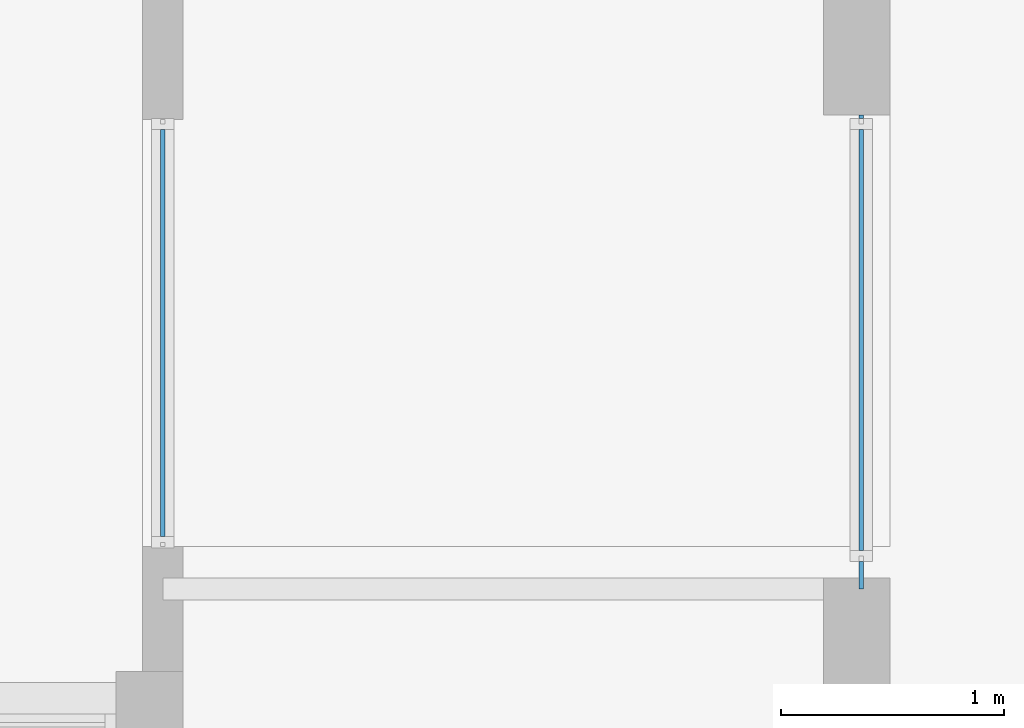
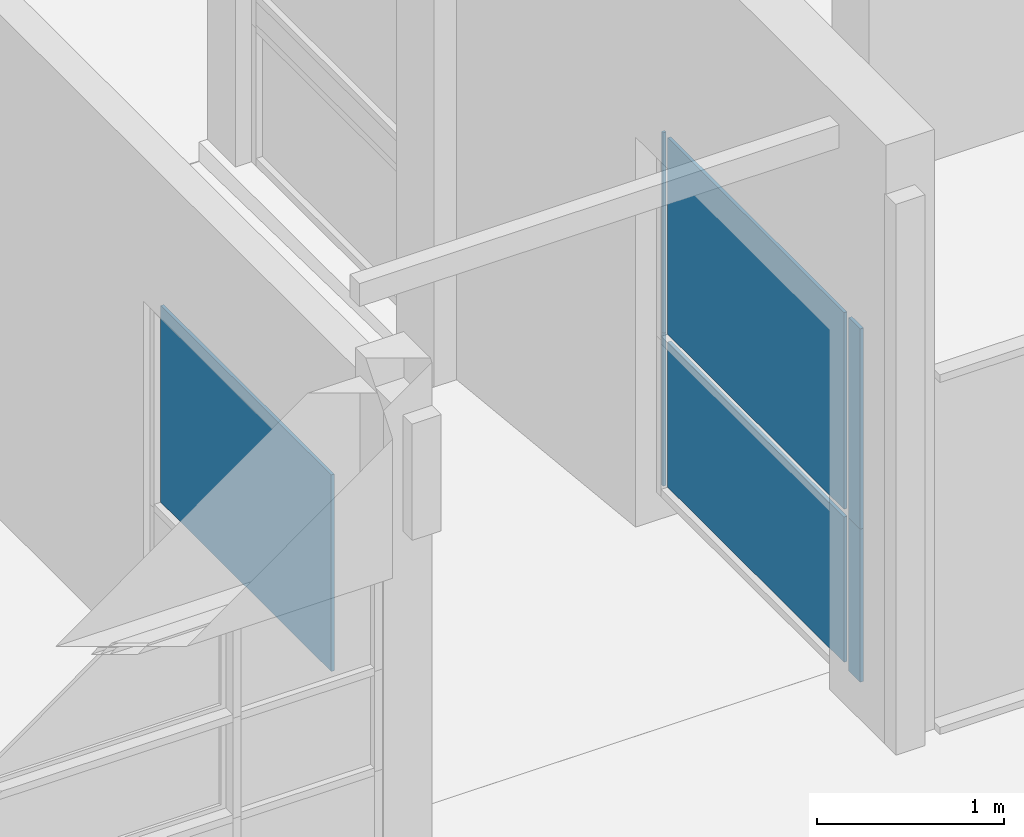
# One storey, part 44 of 117: 7 plates, 2 elements without a shape of their own.
"""IFC4 building model written with IfcOpenShell, lengths in metres."""

from ifc_helpers import new_model, entity, si_unit, converted_unit, derived_unit, direction, frame, origin, place, context, subcontext, project, spatial, indexed_curve, outline, extrude, source, transform, mapped, material, type_object, type_shapes, element, aggregate, save


model = new_model("IFC4")

# Units and contexts
model_context = context("Model", 3, precision=1e-05, world=origin(), true_north=direction((6.123031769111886e-17, 1.0)))
body_context = subcontext(model_context, "Body", "Model", "MODEL_VIEW")
ifc_project = project(units=[si_unit("LENGTHUNIT", "METRE"), si_unit("AREAUNIT", "SQUARE_METRE"), si_unit("VOLUMEUNIT", "CUBIC_METRE"), converted_unit("PLANEANGLEUNIT", "DEGREE", entity("IfcRatioMeasure", 0.017453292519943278), si_unit("PLANEANGLEUNIT", "RADIAN"), dimensions=[0, 0, 0, 0, 0, 0, 0]), si_unit("MASSUNIT", "GRAM", prefix="KILO"), derived_unit("MASSDENSITYUNIT", [(si_unit("MASSUNIT", "GRAM", prefix="KILO"), 1), (si_unit("LENGTHUNIT", "METRE"), -3)]), derived_unit("MOMENTOFINERTIAUNIT", [(si_unit("LENGTHUNIT", "METRE"), 4)]), si_unit("TIMEUNIT", "SECOND"), si_unit("FREQUENCYUNIT", "HERTZ"), si_unit("THERMODYNAMICTEMPERATUREUNIT", "DEGREE_CELSIUS"), derived_unit("THERMALTRANSMITTANCEUNIT", [(si_unit("MASSUNIT", "GRAM", prefix="KILO"), 1), (si_unit("THERMODYNAMICTEMPERATUREUNIT", "KELVIN"), -1), (si_unit("TIMEUNIT", "SECOND"), -3)]), derived_unit("VOLUMETRICFLOWRATEUNIT", [(si_unit("LENGTHUNIT", "METRE"), 3), (si_unit("TIMEUNIT", "SECOND"), -1)]), derived_unit("MASSFLOWRATEUNIT", [(si_unit("MASSUNIT", "GRAM", prefix="KILO"), 1), (si_unit("TIMEUNIT", "SECOND"), -1)]), derived_unit("ROTATIONALFREQUENCYUNIT", [(si_unit("TIMEUNIT", "SECOND"), -1)]), si_unit("ELECTRICCURRENTUNIT", "AMPERE"), si_unit("ELECTRICVOLTAGEUNIT", "VOLT"), si_unit("POWERUNIT", "WATT"), si_unit("FORCEUNIT", "NEWTON", prefix="KILO"), si_unit("ILLUMINANCEUNIT", "LUX"), si_unit("LUMINOUSFLUXUNIT", "LUMEN"), si_unit("LUMINOUSINTENSITYUNIT", "CANDELA"), derived_unit("USERDEFINED", [(si_unit("MASSUNIT", "GRAM", prefix="KILO"), -1), (si_unit("LENGTHUNIT", "METRE"), -2), (si_unit("TIMEUNIT", "SECOND"), 3), (si_unit("LUMINOUSFLUXUNIT", "LUMEN"), 1)]), derived_unit("SOUNDPOWERUNIT", [(si_unit("MASSUNIT", "GRAM", prefix="KILO"), 1), (si_unit("LENGTHUNIT", "METRE"), 2), (si_unit("TIMEUNIT", "SECOND"), -3)]), derived_unit("SOUNDPRESSUREUNIT", [(si_unit("MASSUNIT", "GRAM", prefix="KILO"), 1), (si_unit("LENGTHUNIT", "METRE"), -1), (si_unit("TIMEUNIT", "SECOND"), -2)]), derived_unit("LINEARVELOCITYUNIT", [(si_unit("LENGTHUNIT", "METRE"), 1), (si_unit("TIMEUNIT", "SECOND"), -1)]), si_unit("PRESSUREUNIT", "PASCAL"), derived_unit("USERDEFINED", [(si_unit("LENGTHUNIT", "METRE"), -2), (si_unit("MASSUNIT", "GRAM", prefix="KILO"), 1), (si_unit("TIMEUNIT", "SECOND"), -2)]), derived_unit("LINEARFORCEUNIT", [(si_unit("MASSUNIT", "GRAM", prefix="KILO"), 1), (si_unit("LENGTHUNIT", "METRE"), 1), (si_unit("TIMEUNIT", "SECOND"), -2), (si_unit("LENGTHUNIT", "METRE"), -1)]), derived_unit("PLANARFORCEUNIT", [(si_unit("MASSUNIT", "GRAM", prefix="KILO"), 1), (si_unit("LENGTHUNIT", "METRE"), 1), (si_unit("TIMEUNIT", "SECOND"), -2), (si_unit("LENGTHUNIT", "METRE"), -2)])], contexts=[model_context])

# Site, building, storey
site_placement = place(None, origin())
site = spatial("IfcSite", under=ifc_project, at=site_placement, Name="Superficie", CompositionType="ELEMENT")
building_placement = place(site_placement, origin())
building = spatial("IfcBuilding", under=site, at=building_placement, CompositionType="ELEMENT")
storey_placement = place(building_placement, origin())
storey = spatial("IfcBuildingStorey", under=building, at=storey_placement, Name="Nivel 0", CompositionType="ELEMENT", Elevation=0.0)

# Curtain wall, plate
curtain_wall_type = type_object("IfcCurtainWallType", Name="Muro cortina:Muro cortina - simple", PredefinedType="NOTDEFINED")
curtain_wall_1_placement = place(storey_placement, origin())
curtain_wall_1 = element("IfcCurtainWall", 1, at=curtain_wall_1_placement, inside=storey, type_object=curtain_wall_type, Name="Muro cortina:Muro cortina - simple", ObjectType="Muro cortina:Muro cortina - simple", PredefinedType="NOTDEFINED")
ifc_material = material(Name="Cristal", Category="Vidrio")
plate_type_1 = type_object("IfcPlateType", Name="Panel de sistema:Acristalado", PredefinedType="CURTAIN_PANEL", material=ifc_material)
shared_shape_1 = source(origin(), body_context, "Body", "SweptSolid", [
    extrude(outline(indexed_curve([(-0.01, -0.9136169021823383), (0.01, -0.9136169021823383), (0.01, 0.9136169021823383), (-0.01, 0.9136169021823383), (-0.01, -0.9136169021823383)], self_intersect=False)), frame((0.0, 0.0, 0.0), z_axis=(0.0, 0.0, 1.0), x_axis=(0.0, 1.0, 0.0)), (0.0, 0.0, 1.0), 1.2849999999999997),
])
type_shapes(plate_type_1, [shared_shape_1])
plate_1_placement = place(curtain_wall_1_placement, frame((12.881799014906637, 7.475356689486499, 1.0450000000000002), z_axis=(0.0, 0.0, 1.0), x_axis=(0.0, -1.0, 0.0)))
plate_1 = element("IfcPlate", 2, at=plate_1_placement, type_object=plate_type_1, material=ifc_material, Name="Panel de sistema:Acristalado", ObjectType="Panel de sistema:Acristalado", PredefinedType="CURTAIN_PANEL", context=body_context, shape_type="MappedRepresentation", body=[
    mapped(shared_shape_1, transform((0.0, 0.0, 0.0), scale=1.0)),
])
aggregate(curtain_wall_1, [plate_1])

# Curtain wall, plates
curtain_wall_2_placement = place(storey_placement, origin())
curtain_wall_2 = element("IfcCurtainWall", 3, at=curtain_wall_2_placement, inside=storey, type_object=curtain_wall_type, Name="Muro cortina:Muro cortina - simple", ObjectType="Muro cortina:Muro cortina - simple", PredefinedType="NOTDEFINED")
plate_type_2 = type_object("IfcPlateType", Name="Panel de sistema:Acristalado", PredefinedType="CURTAIN_PANEL", material=ifc_material)
shared_shape_2 = source(origin(), body_context, "Body", "SweptSolid", [
    extrude(outline(indexed_curve([(-0.01, -0.008235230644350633), (0.01, -0.008235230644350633), (0.01, 0.008235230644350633), (-0.01, 0.008235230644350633), (-0.01, -0.008235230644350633)], self_intersect=False)), frame((0.0, 0.0, 0.0), z_axis=(0.0, 0.0, 1.0), x_axis=(0.0, 1.0, 0.0)), (0.0, 0.0, 1.0), 1.0),
])
type_shapes(plate_type_2, [shared_shape_2])
plate_2_placement = place(curtain_wall_2_placement, frame((16.01679901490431, 8.447208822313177, 0.020000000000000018), z_axis=(0.0, 0.0, 1.0), x_axis=(0.0, -1.0, 0.0)))
plate_2 = element("IfcPlate", 4, at=plate_2_placement, type_object=plate_type_2, material=ifc_material, Name="Panel de sistema:Acristalado", ObjectType="Panel de sistema:Acristalado", PredefinedType="CURTAIN_PANEL", context=body_context, shape_type="MappedRepresentation", body=[
    mapped(shared_shape_2, transform((0.0, 0.0, 0.0), scale=1.0)),
])
plate_type_3 = type_object("IfcPlateType", Name="Panel de sistema:Acristalado", PredefinedType="CURTAIN_PANEL", material=ifc_material)
shared_shape_3 = source(origin(), body_context, "Body", "SweptSolid", [
    extrude(outline(indexed_curve([(-0.01, -0.94426476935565), (0.01, -0.94426476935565), (0.01, 0.94426476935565), (-0.01, 0.94426476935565), (-0.01, -0.94426476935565)], self_intersect=False)), frame((0.0, 0.0, 0.0), z_axis=(0.0, 0.0, 1.0), x_axis=(0.0, 1.0, 0.0)), (0.0, 0.0, 1.0), 0.9500000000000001),
])
type_shapes(plate_type_3, [shared_shape_3])
plate_3_placement = place(curtain_wall_2_placement, frame((16.016799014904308, 7.444708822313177, 0.045000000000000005), z_axis=(0.0, 0.0, 1.0), x_axis=(0.0, -1.0, 0.0)))
plate_3 = element("IfcPlate", 5, at=plate_3_placement, type_object=plate_type_3, material=ifc_material, Name="Panel de sistema:Acristalado", ObjectType="Panel de sistema:Acristalado", PredefinedType="CURTAIN_PANEL", context=body_context, shape_type="MappedRepresentation", body=[
    mapped(shared_shape_3, transform((0.0, 0.0, 0.0), scale=1.0)),
])
plate_type_4 = type_object("IfcPlateType", Name="Panel de sistema:Acristalado", PredefinedType="CURTAIN_PANEL", material=ifc_material)
shared_shape_4 = source(origin(), body_context, "Body", "SweptSolid", [
    extrude(outline(indexed_curve([(-0.01, -0.061846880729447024), (0.01, -0.061846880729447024), (0.01, 0.061846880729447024), (-0.01, 0.061846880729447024), (-0.01, -0.061846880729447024)], self_intersect=False)), frame((0.0, 0.0, 0.0), z_axis=(0.0, 0.0, 1.0), x_axis=(0.0, 1.0, 0.0)), (0.0, 0.0, 1.0), 1.0),
])
type_shapes(plate_type_4, [shared_shape_4])
plate_4_placement = place(curtain_wall_2_placement, frame((16.016799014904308, 6.3885971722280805, 0.020000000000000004), z_axis=(0.0, 0.0, 1.0), x_axis=(0.0, -1.0, 0.0)))
plate_4 = element("IfcPlate", 6, at=plate_4_placement, type_object=plate_type_4, material=ifc_material, Name="Panel de sistema:Acristalado", ObjectType="Panel de sistema:Acristalado", PredefinedType="CURTAIN_PANEL", context=body_context, shape_type="MappedRepresentation", body=[
    mapped(shared_shape_4, transform((0.0, 0.0, 0.0), scale=1.0)),
])
plate_type_5 = type_object("IfcPlateType", Name="Panel de sistema:Acristalado", PredefinedType="CURTAIN_PANEL", material=ifc_material)
shared_shape_5 = source(origin(), body_context, "Body", "SweptSolid", [
    extrude(outline(indexed_curve([(-0.01, -0.008235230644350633), (0.01, -0.008235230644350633), (0.01, 0.008235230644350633), (-0.01, 0.008235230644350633), (-0.01, -0.008235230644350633)], self_intersect=False)), frame((0.0, 0.0, 0.0), z_axis=(0.0, 0.0, 1.0), x_axis=(0.0, 1.0, 0.0)), (0.0, 0.0, 1.0), 1.3099999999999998),
])
type_shapes(plate_type_5, [shared_shape_5])
plate_5_placement = place(curtain_wall_2_placement, frame((16.01679901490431, 8.447208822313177, 1.0200000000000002), z_axis=(0.0, 0.0, 1.0), x_axis=(0.0, -1.0, 0.0)))
plate_5 = element("IfcPlate", 7, at=plate_5_placement, type_object=plate_type_5, material=ifc_material, Name="Panel de sistema:Acristalado", ObjectType="Panel de sistema:Acristalado", PredefinedType="CURTAIN_PANEL", context=body_context, shape_type="MappedRepresentation", body=[
    mapped(shared_shape_5, transform((0.0, 0.0, 0.0), scale=1.0)),
])
plate_type_6 = type_object("IfcPlateType", Name="Panel de sistema:Acristalado", PredefinedType="CURTAIN_PANEL", material=ifc_material)
shared_shape_6 = source(origin(), body_context, "Body", "SweptSolid", [
    extrude(outline(indexed_curve([(-0.01, -0.94426476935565), (0.01, -0.94426476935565), (0.01, 0.94426476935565), (-0.01, 0.94426476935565), (-0.01, -0.94426476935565)], self_intersect=False)), frame((0.0, 0.0, 0.0), z_axis=(0.0, 0.0, 1.0), x_axis=(0.0, 1.0, 0.0)), (0.0, 0.0, 1.0), 1.2849999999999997),
])
type_shapes(plate_type_6, [shared_shape_6])
plate_6_placement = place(curtain_wall_2_placement, frame((16.016799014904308, 7.444708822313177, 1.0450000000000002), z_axis=(0.0, 0.0, 1.0), x_axis=(0.0, -1.0, 0.0)))
plate_6 = element("IfcPlate", 8, at=plate_6_placement, type_object=plate_type_6, material=ifc_material, Name="Panel de sistema:Acristalado", ObjectType="Panel de sistema:Acristalado", PredefinedType="CURTAIN_PANEL", context=body_context, shape_type="MappedRepresentation", body=[
    mapped(shared_shape_6, transform((0.0, 0.0, 0.0), scale=1.0)),
])
plate_type_7 = type_object("IfcPlateType", Name="Panel de sistema:Acristalado", PredefinedType="CURTAIN_PANEL", material=ifc_material)
shared_shape_7 = source(origin(), body_context, "Body", "SweptSolid", [
    extrude(outline(indexed_curve([(-0.01, -0.061846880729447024), (0.01, -0.061846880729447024), (0.01, 0.061846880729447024), (-0.01, 0.061846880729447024), (-0.01, -0.061846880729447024)], self_intersect=False)), frame((0.0, 0.0, 0.0), z_axis=(0.0, 0.0, 1.0), x_axis=(0.0, 1.0, 0.0)), (0.0, 0.0, 1.0), 1.3099999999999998),
])
type_shapes(plate_type_7, [shared_shape_7])
plate_7_placement = place(curtain_wall_2_placement, frame((16.016799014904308, 6.3885971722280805, 1.0200000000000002), z_axis=(0.0, 0.0, 1.0), x_axis=(0.0, -1.0, 0.0)))
plate_7 = element("IfcPlate", 9, at=plate_7_placement, type_object=plate_type_7, material=ifc_material, Name="Panel de sistema:Acristalado", ObjectType="Panel de sistema:Acristalado", PredefinedType="CURTAIN_PANEL", context=body_context, shape_type="MappedRepresentation", body=[
    mapped(shared_shape_7, transform((0.0, 0.0, 0.0), scale=1.0)),
])
aggregate(curtain_wall_2, [plate_2, plate_3, plate_4, plate_5, plate_6, plate_7])

save(model, "model.ifc")
